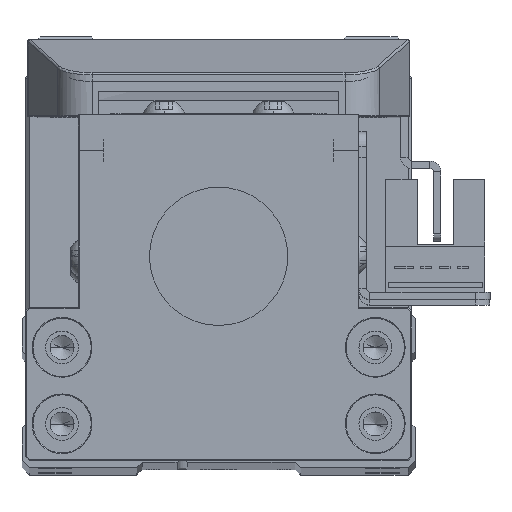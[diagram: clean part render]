
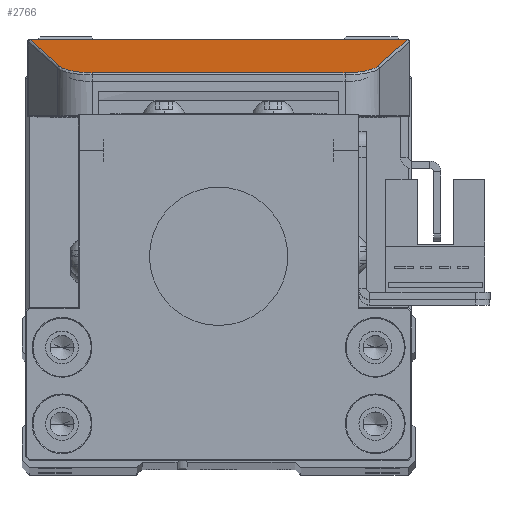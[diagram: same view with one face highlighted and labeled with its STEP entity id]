
A CAD part, top view. The second image highlights one B-rep face of the part: STEP entity #2766.
In plain terms, the highlighted planar face has unit normal (0, 0.962, 0.274) as drawn and (0, 0.274, 0.962) by its records, which use the part's own axes.
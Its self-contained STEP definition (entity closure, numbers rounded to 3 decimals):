
#57 = ORIENTED_EDGE ( 'NONE', *, *, #26154, .T. ) ;
#822 = ORIENTED_EDGE ( 'NONE', *, *, #2620, .T. ) ;
#921 = ORIENTED_EDGE ( 'NONE', *, *, #20872, .T. ) ;
#931 =( BOUNDED_CURVE ( )  B_SPLINE_CURVE ( 3, ( #3735, #26217, #26338, #11303 ),
 .UNSPECIFIED., .F., .T. ) 
 B_SPLINE_CURVE_WITH_KNOTS ( ( 4, 4 ),
 ( 0., 1.263 ),
 .UNSPECIFIED. ) 
 CURVE ( )  GEOMETRIC_REPRESENTATION_ITEM ( )  RATIONAL_B_SPLINE_CURVE ( ( 1., 0.871, 0.871, 1. ) ) 
 REPRESENTATION_ITEM ( '' )  );
#1195 = CARTESIAN_POINT ( 'NONE',  ( 17.344, 25.282, -4.638 ) ) ;
#1360 = EDGE_CURVE ( 'NONE', #21020, #1492, #7919, .T. ) ;
#1492 = VERTEX_POINT ( 'NONE', #4140 ) ;
#1974 = VERTEX_POINT ( 'NONE', #31189 ) ;
#2620 = EDGE_CURVE ( 'NONE', #29750, #27544, #29425, .T. ) ;
#2766 = ADVANCED_FACE ( 'NONE', ( #21547 ), #29279, .F. ) ;
#3540 = CARTESIAN_POINT ( 'NONE',  ( -25.872, 9.281, -0.08 ) ) ;
#3720 = CARTESIAN_POINT ( 'NONE',  ( 15.221, 42.754, -9.615 ) ) ;
#3735 = CARTESIAN_POINT ( 'NONE',  ( -17.344, 25.282, -4.638 ) ) ;
#4140 = CARTESIAN_POINT ( 'NONE',  ( 17.344, 25.282, -4.638 ) ) ;
#4504 = DIRECTION ( 'NONE',  ( -1., 0., 0. ) ) ;
#4917 =( BOUNDED_CURVE ( )  B_SPLINE_CURVE ( 3, ( #25556, #8003, #28047, #13054 ),
 .UNSPECIFIED., .F., .F. ) 
 B_SPLINE_CURVE_WITH_KNOTS ( ( 4, 4 ),
 ( 5.009, 5.02 ),
 .UNSPECIFIED. ) 
 CURVE ( )  GEOMETRIC_REPRESENTATION_ITEM ( )  RATIONAL_B_SPLINE_CURVE ( ( 1., 1., 1., 1. ) ) 
 REPRESENTATION_ITEM ( '' )  );
#6035 = VECTOR ( 'NONE', #4504, 1000. ) ;
#6759 = CARTESIAN_POINT ( 'NONE',  ( -22.655, 19.393, -2.96 ) ) ;
#6878 = ORIENTED_EDGE ( 'NONE', *, *, #31069, .T. ) ;
#7919 =( BOUNDED_CURVE ( )  B_SPLINE_CURVE ( 3, ( #16208, #13673, #28684, #1195 ),
 .UNSPECIFIED., .F., .T. ) 
 B_SPLINE_CURVE_WITH_KNOTS ( ( 4, 4 ),
 ( 5.02, 6.283 ),
 .UNSPECIFIED. ) 
 CURVE ( )  GEOMETRIC_REPRESENTATION_ITEM ( )  RATIONAL_B_SPLINE_CURVE ( ( 1., 0.871, 0.871, 1. ) ) 
 REPRESENTATION_ITEM ( '' )  );
#8003 = CARTESIAN_POINT ( 'NONE',  ( 25.874, 9.275, -0.078 ) ) ;
#8602 = AXIS2_PLACEMENT_3D ( 'NONE', #24260, #31805, #16801 ) ;
#8706 = CARTESIAN_POINT ( 'NONE',  ( -25.876, 9.269, -0.077 ) ) ;
#10660 = EDGE_LOOP ( 'NONE', ( #57, #14655, #921, #16587, #12670, #6878, #23964, #822 ) ) ;
#11303 = CARTESIAN_POINT ( 'NONE',  ( -21.823, 22.007, -3.705 ) ) ;
#12059 = CARTESIAN_POINT ( 'NONE',  ( 25.87, 9.287, -0.082 ) ) ;
#12268 = CARTESIAN_POINT ( 'NONE',  ( -17.344, 25.282, -4.638 ) ) ;
#12670 = ORIENTED_EDGE ( 'NONE', *, *, #16101, .T. ) ;
#13054 = CARTESIAN_POINT ( 'NONE',  ( 25.87, 9.287, -0.082 ) ) ;
#13673 = CARTESIAN_POINT ( 'NONE',  ( 21.179, 24.03, -4.281 ) ) ;
#14655 = ORIENTED_EDGE ( 'NONE', *, *, #31928, .T. ) ;
#15416 = EDGE_CURVE ( 'NONE', #32323, #29750, #26483, .T. ) ;
#16101 = EDGE_CURVE ( 'NONE', #1492, #16810, #27619, .T. ) ;
#16208 = CARTESIAN_POINT ( 'NONE',  ( 21.823, 22.007, -3.705 ) ) ;
#16587 = ORIENTED_EDGE ( 'NONE', *, *, #1360, .T. ) ;
#16801 = DIRECTION ( 'NONE',  ( 0., 0.962, -0.274 ) ) ;
#16810 = VERTEX_POINT ( 'NONE', #12268 ) ;
#17024 = CARTESIAN_POINT ( 'NONE',  ( -17.344, 25.282, -4.638 ) ) ;
#18976 = CARTESIAN_POINT ( 'NONE',  ( -25.876, 9.269, -0.077 ) ) ;
#20063 = VECTOR ( 'NONE', #25751, 1000. ) ;
#20851 = VECTOR ( 'NONE', #23789, 1000. ) ;
#20872 = EDGE_CURVE ( 'NONE', #31695, #21020, #27506, .T. ) ;
#21020 = VERTEX_POINT ( 'NONE', #22036 ) ;
#21215 = CARTESIAN_POINT ( 'NONE',  ( -25.874, 9.275, -0.078 ) ) ;
#21547 = FACE_OUTER_BOUND ( 'NONE', #10660, .T. ) ;
#21882 = DIRECTION ( 'NONE',  ( -0.293, -0.92, 0.262 ) ) ;
#22036 = CARTESIAN_POINT ( 'NONE',  ( 21.823, 22.007, -3.705 ) ) ;
#23240 = CARTESIAN_POINT ( 'NONE',  ( 26.25, 9.269, -0.077 ) ) ;
#23683 = CARTESIAN_POINT ( 'NONE',  ( -25.87, 9.287, -0.082 ) ) ;
#23729 = CARTESIAN_POINT ( 'NONE',  ( -25.87, 9.287, -0.082 ) ) ;
#23789 = DIRECTION ( 'NONE',  ( -0.293, 0.92, -0.262 ) ) ;
#23964 = ORIENTED_EDGE ( 'NONE', *, *, #15416, .T. ) ;
#24260 = CARTESIAN_POINT ( 'NONE',  ( -43.406, 25.5, -4.7 ) ) ;
#25556 = CARTESIAN_POINT ( 'NONE',  ( 25.876, 9.269, -0.077 ) ) ;
#25701 = VECTOR ( 'NONE', #21882, 1000. ) ;
#25751 = DIRECTION ( 'NONE',  ( 1., 0., 0. ) ) ;
#26154 = EDGE_CURVE ( 'NONE', #27544, #1974, #27523, .T. ) ;
#26217 = CARTESIAN_POINT ( 'NONE',  ( -19.466, 25.282, -4.638 ) ) ;
#26338 = CARTESIAN_POINT ( 'NONE',  ( -21.179, 24.03, -4.281 ) ) ;
#26483 = LINE ( 'NONE', #6759, #25701 ) ;
#27261 = CARTESIAN_POINT ( 'NONE',  ( -21.823, 22.007, -3.705 ) ) ;
#27506 = LINE ( 'NONE', #3720, #20851 ) ;
#27523 = LINE ( 'NONE', #23240, #20063 ) ;
#27544 = VERTEX_POINT ( 'NONE', #18976 ) ;
#27619 = LINE ( 'NONE', #17024, #6035 ) ;
#28047 = CARTESIAN_POINT ( 'NONE',  ( 25.872, 9.281, -0.08 ) ) ;
#28684 = CARTESIAN_POINT ( 'NONE',  ( 19.466, 25.282, -4.638 ) ) ;
#29279 = PLANE ( 'NONE',  #8602 ) ;
#29425 =( BOUNDED_CURVE ( )  B_SPLINE_CURVE ( 3, ( #23729, #3540, #21215, #8706 ),
 .UNSPECIFIED., .F., .F. ) 
 B_SPLINE_CURVE_WITH_KNOTS ( ( 4, 4 ),
 ( 1.263, 1.274 ),
 .UNSPECIFIED. ) 
 CURVE ( )  GEOMETRIC_REPRESENTATION_ITEM ( )  RATIONAL_B_SPLINE_CURVE ( ( 1., 1., 1., 1. ) ) 
 REPRESENTATION_ITEM ( '' )  );
#29750 = VERTEX_POINT ( 'NONE', #23683 ) ;
#31069 = EDGE_CURVE ( 'NONE', #16810, #32323, #931, .T. ) ;
#31189 = CARTESIAN_POINT ( 'NONE',  ( 25.876, 9.269, -0.077 ) ) ;
#31695 = VERTEX_POINT ( 'NONE', #12059 ) ;
#31805 = DIRECTION ( 'NONE',  ( 0., -0.274, -0.962 ) ) ;
#31928 = EDGE_CURVE ( 'NONE', #1974, #31695, #4917, .T. ) ;
#32323 = VERTEX_POINT ( 'NONE', #27261 ) ;
